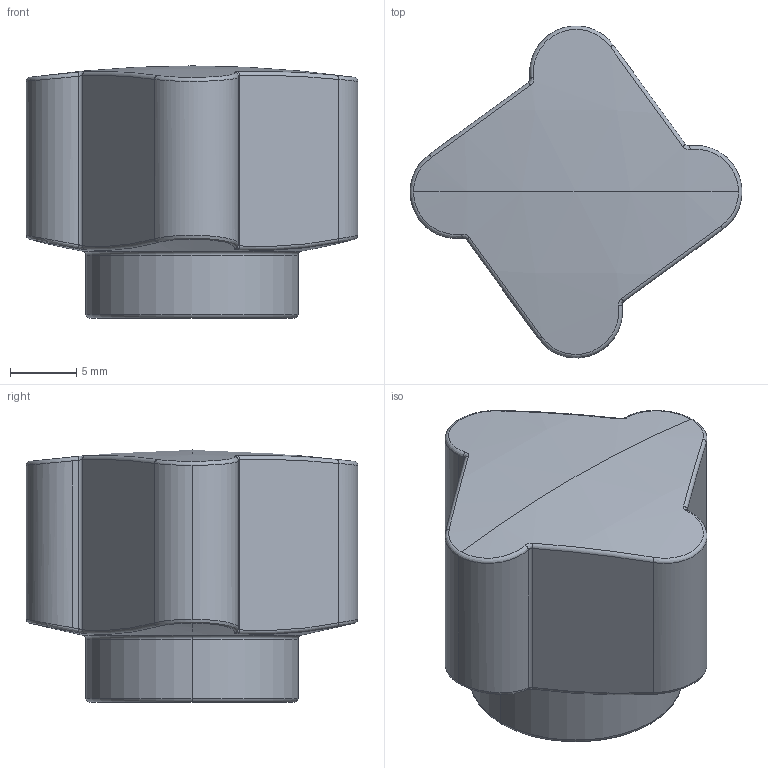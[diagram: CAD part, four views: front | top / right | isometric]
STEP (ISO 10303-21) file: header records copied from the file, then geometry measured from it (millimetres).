
FILE_DESCRIPTION (( 'STEP AP214' ), '1' );
FILE_NAME ('1120 25 301.STEP', '2010-11-26T15:26:15', ( 'Marc' ), ( '' ), 'SwSTEP 2.0', 'SolidWorks 2010', '' );
FILE_SCHEMA (( 'AUTOMOTIVE_DESIGN' ));
Length unit declared in the file: millimetre
Products named in the file (1): 1120 25 301
Bounding box: 25 x 25 x 19 mm (x, y, z)
Volume: 5407.9 mm3; surface area: 3421.9 mm2
Topology: 2 solids, 2 shells, 63 faces, 141 edges, 82 vertices
Faces by surface type: cylinder 19, bspline 16, torus 12, plane 8, sphere 4, cone 4
Entity records: 4680 total; most frequent: CARTESIAN_POINT 3217, ORIENTED_EDGE 278, DIRECTION 263, EDGE_CURVE 139, AXIS2_PLACEMENT_3D 118, VERTEX_POINT 82, CIRCLE 70, EDGE_LOOP 65
